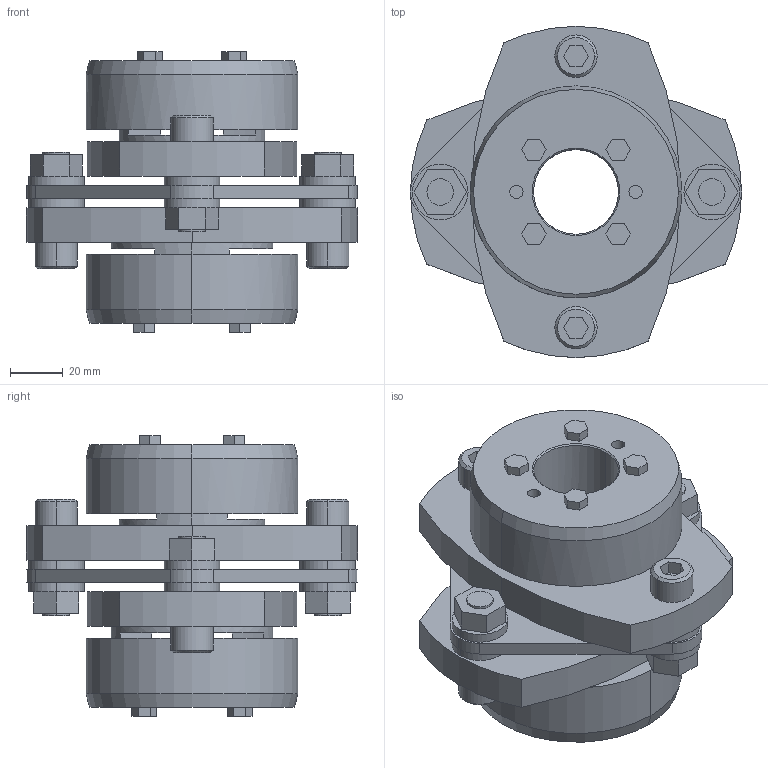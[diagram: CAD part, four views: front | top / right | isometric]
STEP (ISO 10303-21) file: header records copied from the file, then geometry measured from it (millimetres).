
FILE_DESCRIPTION((''),'2;1');
FILE_NAME('LCS-125T7-32×38.stp','2011-09-07T09:49:52',(''),(''),'AutoCAD STEP 2000i','AutoCAD 2000i',', , ');
FILE_SCHEMA(('CONFIG_CONTROL_DESIGN'));
Length unit declared in the file: millimetre
Products named in the file (7): LCS-125T7-32×38; 忣兜1; LC125T7-T038; LC125T7-T035; LC125T7-T032-1; LC125T7-T032; LCS125-ITA
Assembly tree (6 placements, depth 2):
  LCS-125T7-32×38
    忣兜1
    LC125T7-T038
    LC125T7-T035
    LC125T7-T032-1
    LC125T7-T032
    LCS125-ITA
Bounding box: 125 x 125 x 106 mm (x, y, z)
Volume: 474728.6 mm3; surface area: 96646.3 mm2
Topology: 1 solids, 1 shells, 246 faces, 606 edges, 398 vertices
Faces by surface type: plane 146, cylinder 80, cone 20
Entity records: 7499 total; most frequent: DIRECTION 1310, CARTESIAN_POINT 1257, ORIENTED_EDGE 1212, EDGE_CURVE 606, AXIS2_PLACEMENT_3D 451, VECTOR 408, LINE 408, VERTEX_POINT 398
